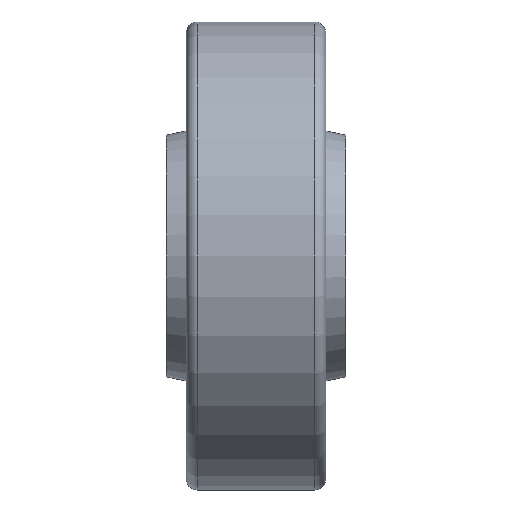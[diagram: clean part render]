
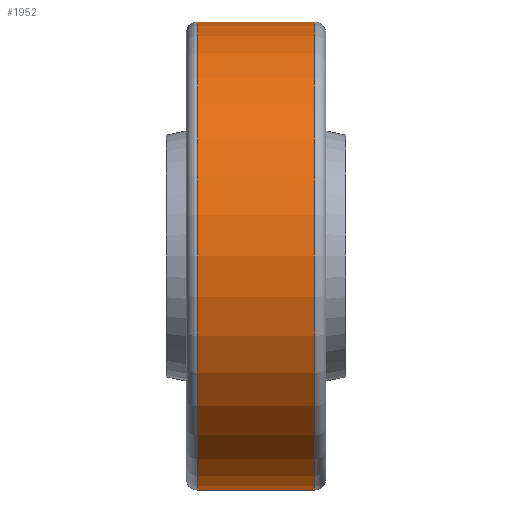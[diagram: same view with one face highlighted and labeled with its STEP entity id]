
A CAD part, front view. The second image highlights one B-rep face of the part: STEP entity #1952.
In plain terms, the highlighted cylindrical face has radius 23.5 mm (diameter 47 mm), a full revolution.
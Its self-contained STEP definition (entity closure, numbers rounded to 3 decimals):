
#421=CYLINDRICAL_SURFACE('',#2101,23.5);
#474=FACE_BOUND('',#692,.T.);
#550=FACE_OUTER_BOUND('',#691,.T.);
#691=EDGE_LOOP('',(#1457));
#692=EDGE_LOOP('',(#1458));
#878=CIRCLE('',#2100,23.5);
#879=CIRCLE('',#2102,23.5);
#1002=VERTEX_POINT('',#3053);
#1003=VERTEX_POINT('',#3056);
#1190=EDGE_CURVE('',#1002,#1002,#878,.T.);
#1191=EDGE_CURVE('',#1003,#1003,#879,.T.);
#1457=ORIENTED_EDGE('',*,*,#1190,.T.);
#1458=ORIENTED_EDGE('',*,*,#1191,.F.);
#1952=ADVANCED_FACE('',(#550,#474),#421,.T.);
#2100=AXIS2_PLACEMENT_3D('',#3054,#2402,#2403);
#2101=AXIS2_PLACEMENT_3D('',#3055,#2404,#2405);
#2102=AXIS2_PLACEMENT_3D('',#3057,#2406,#2407);
#2402=DIRECTION('center_axis',(-1.,0.,0.));
#2403=DIRECTION('ref_axis',(0.,0.,1.));
#2404=DIRECTION('center_axis',(-1.,0.,0.));
#2405=DIRECTION('ref_axis',(0.,-1.,0.));
#2406=DIRECTION('center_axis',(-1.,0.,0.));
#2407=DIRECTION('ref_axis',(0.,0.,1.));
#3053=CARTESIAN_POINT('',(10.4,-23.5,0.));
#3054=CARTESIAN_POINT('Origin',(10.4,0.,0.));
#3055=CARTESIAN_POINT('Origin',(4.5,0.,0.));
#3056=CARTESIAN_POINT('',(-1.4,-23.5,0.));
#3057=CARTESIAN_POINT('Origin',(-1.4,0.,0.));
